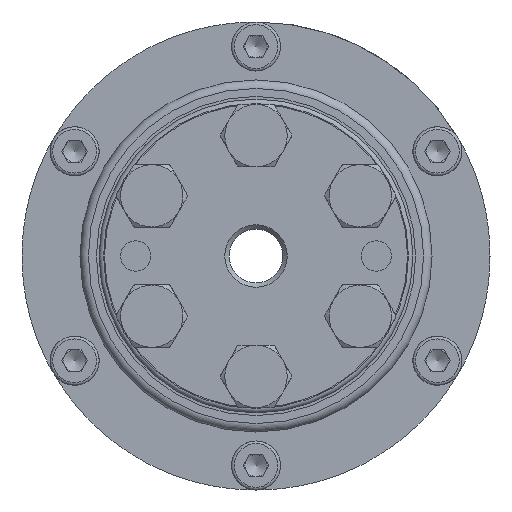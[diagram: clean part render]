
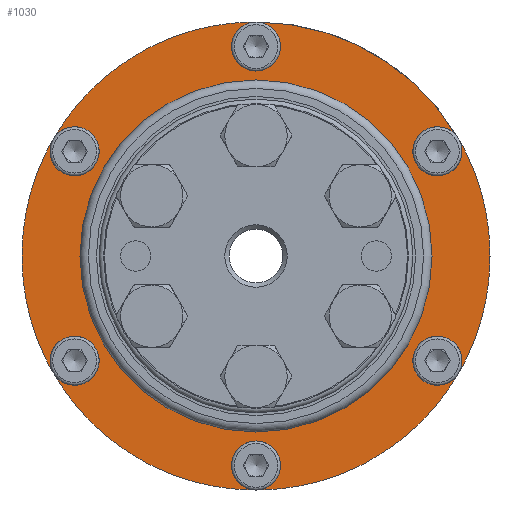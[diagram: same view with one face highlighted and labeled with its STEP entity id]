
A CAD part, left-side view. The second image highlights one B-rep face of the part: STEP entity #1030.
In plain terms, the highlighted planar face has unit normal (-1, 0, 0).
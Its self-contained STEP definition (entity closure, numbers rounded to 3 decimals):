
#1030 = ADVANCED_FACE( '', ( #2565, #2566 ), #2567, .T. );
#2565 = FACE_OUTER_BOUND( '', #4957, .T. );
#2566 = FACE_BOUND( '', #4958, .T. );
#2567 = PLANE( '', #4959 );
#4957 = EDGE_LOOP( '', ( #8512, #8513, #8514, #8515, #8516, #8517, #8518, #8519, #8520, #8521, #8522, #8523 ) );
#4958 = EDGE_LOOP( '', ( #8524 ) );
#4959 = AXIS2_PLACEMENT_3D( '', #8525, #8526, #8527 );
#8512 = ORIENTED_EDGE( '', *, *, #12672, .T. );
#8513 = ORIENTED_EDGE( '', *, *, #11910, .F. );
#8514 = ORIENTED_EDGE( '', *, *, #12673, .T. );
#8515 = ORIENTED_EDGE( '', *, *, #11928, .F. );
#8516 = ORIENTED_EDGE( '', *, *, #12674, .T. );
#8517 = ORIENTED_EDGE( '', *, *, #12675, .F. );
#8518 = ORIENTED_EDGE( '', *, *, #12676, .T. );
#8519 = ORIENTED_EDGE( '', *, *, #12677, .F. );
#8520 = ORIENTED_EDGE( '', *, *, #12678, .T. );
#8521 = ORIENTED_EDGE( '', *, *, #12679, .F. );
#8522 = ORIENTED_EDGE( '', *, *, #12680, .T. );
#8523 = ORIENTED_EDGE( '', *, *, #12681, .F. );
#8524 = ORIENTED_EDGE( '', *, *, #12682, .F. );
#8525 = CARTESIAN_POINT( '', ( 1.25, 0., 26.25 ) );
#8526 = DIRECTION( '', ( -1., 0., 0. ) );
#8527 = DIRECTION( '', ( 0., 0., 1. ) );
#11910 = EDGE_CURVE( '', #13873, #13873, #13874, .T. );
#11928 = EDGE_CURVE( '', #13904, #13904, #13905, .T. );
#12672 = EDGE_CURVE( '', #15131, #13873, #15132, .T. );
#12673 = EDGE_CURVE( '', #13873, #13904, #15133, .T. );
#12674 = EDGE_CURVE( '', #13904, #15134, #15135, .T. );
#12675 = EDGE_CURVE( '', #15134, #15134, #15136, .T. );
#12676 = EDGE_CURVE( '', #15134, #15137, #15138, .T. );
#12677 = EDGE_CURVE( '', #15137, #15137, #15139, .T. );
#12678 = EDGE_CURVE( '', #15137, #15140, #15141, .T. );
#12679 = EDGE_CURVE( '', #15140, #15140, #15142, .T. );
#12680 = EDGE_CURVE( '', #15140, #15131, #15143, .T. );
#12681 = EDGE_CURVE( '', #15131, #15131, #15144, .T. );
#12682 = EDGE_CURVE( '', #15145, #15145, #15146, .T. );
#13873 = VERTEX_POINT( '', #16787 );
#13874 = CIRCLE( '', #16788, 2.75 );
#13904 = VERTEX_POINT( '', #16862 );
#13905 = CIRCLE( '', #16863, 2.75 );
#15131 = VERTEX_POINT( '', #19317 );
#15132 = CIRCLE( '', #19318, 26.25 );
#15133 = CIRCLE( '', #19319, 26.25 );
#15134 = VERTEX_POINT( '', #19320 );
#15135 = CIRCLE( '', #19321, 26.25 );
#15136 = CIRCLE( '', #19322, 2.75 );
#15137 = VERTEX_POINT( '', #19323 );
#15138 = CIRCLE( '', #19324, 26.25 );
#15139 = CIRCLE( '', #19325, 2.75 );
#15140 = VERTEX_POINT( '', #19326 );
#15141 = CIRCLE( '', #19327, 26.25 );
#15142 = CIRCLE( '', #19328, 2.75 );
#15143 = CIRCLE( '', #19329, 26.25 );
#15144 = CIRCLE( '', #19330, 2.75 );
#15145 = VERTEX_POINT( '', #19331 );
#15146 = CIRCLE( '', #19332, 17.6 );
#16787 = CARTESIAN_POINT( '', ( 1.25, -22.733, 13.125 ) );
#16788 = AXIS2_PLACEMENT_3D( '', #21521, #21522, #21523 );
#16862 = CARTESIAN_POINT( '', ( 1.25, 0., 26.25 ) );
#16863 = AXIS2_PLACEMENT_3D( '', #21550, #21551, #21552 );
#19317 = CARTESIAN_POINT( '', ( 1.25, -22.733, -13.125 ) );
#19318 = AXIS2_PLACEMENT_3D( '', #22578, #22579, #22580 );
#19319 = AXIS2_PLACEMENT_3D( '', #22581, #22582, #22583 );
#19320 = CARTESIAN_POINT( '', ( 1.25, 22.733, 13.125 ) );
#19321 = AXIS2_PLACEMENT_3D( '', #22584, #22585, #22586 );
#19322 = AXIS2_PLACEMENT_3D( '', #22587, #22588, #22589 );
#19323 = CARTESIAN_POINT( '', ( 1.25, 22.733, -13.125 ) );
#19324 = AXIS2_PLACEMENT_3D( '', #22590, #22591, #22592 );
#19325 = AXIS2_PLACEMENT_3D( '', #22593, #22594, #22595 );
#19326 = CARTESIAN_POINT( '', ( 1.25, 0., -26.25 ) );
#19327 = AXIS2_PLACEMENT_3D( '', #22596, #22597, #22598 );
#19328 = AXIS2_PLACEMENT_3D( '', #22599, #22600, #22601 );
#19329 = AXIS2_PLACEMENT_3D( '', #22602, #22603, #22604 );
#19330 = AXIS2_PLACEMENT_3D( '', #22605, #22606, #22607 );
#19331 = CARTESIAN_POINT( '', ( 1.25, 0., 17.6 ) );
#19332 = AXIS2_PLACEMENT_3D( '', #22608, #22609, #22610 );
#21521 = CARTESIAN_POINT( '', ( 1.25, -20.352, 11.75 ) );
#21522 = DIRECTION( '', ( -1., 0., 0. ) );
#21523 = DIRECTION( '', ( 0., -0.866, 0.5 ) );
#21550 = CARTESIAN_POINT( '', ( 1.25, 0., 23.5 ) );
#21551 = DIRECTION( '', ( -1., 0., 0. ) );
#21552 = DIRECTION( '', ( 0., 0., 1. ) );
#22578 = CARTESIAN_POINT( '', ( 1.25, 0., 0. ) );
#22579 = DIRECTION( '', ( -1., 0., 0. ) );
#22580 = DIRECTION( '', ( 0., 0., 1. ) );
#22581 = CARTESIAN_POINT( '', ( 1.25, 0., 0. ) );
#22582 = DIRECTION( '', ( -1., 0., 0. ) );
#22583 = DIRECTION( '', ( 0., 0., 1. ) );
#22584 = CARTESIAN_POINT( '', ( 1.25, 0., 0. ) );
#22585 = DIRECTION( '', ( -1., 0., 0. ) );
#22586 = DIRECTION( '', ( 0., 0., 1. ) );
#22587 = CARTESIAN_POINT( '', ( 1.25, 20.352, 11.75 ) );
#22588 = DIRECTION( '', ( -1., 0., 0. ) );
#22589 = DIRECTION( '', ( 0., 0.866, 0.5 ) );
#22590 = CARTESIAN_POINT( '', ( 1.25, 0., 0. ) );
#22591 = DIRECTION( '', ( -1., 0., 0. ) );
#22592 = DIRECTION( '', ( 0., 0., 1. ) );
#22593 = CARTESIAN_POINT( '', ( 1.25, 20.352, -11.75 ) );
#22594 = DIRECTION( '', ( -1., 0., 0. ) );
#22595 = DIRECTION( '', ( 0., 0.866, -0.5 ) );
#22596 = CARTESIAN_POINT( '', ( 1.25, 0., 0. ) );
#22597 = DIRECTION( '', ( -1., 0., 0. ) );
#22598 = DIRECTION( '', ( 0., 0., 1. ) );
#22599 = CARTESIAN_POINT( '', ( 1.25, 0., -23.5 ) );
#22600 = DIRECTION( '', ( -1., 0., 0. ) );
#22601 = DIRECTION( '', ( 0., 0., -1. ) );
#22602 = CARTESIAN_POINT( '', ( 1.25, 0., 0. ) );
#22603 = DIRECTION( '', ( -1., 0., 0. ) );
#22604 = DIRECTION( '', ( 0., 0., 1. ) );
#22605 = CARTESIAN_POINT( '', ( 1.25, -20.352, -11.75 ) );
#22606 = DIRECTION( '', ( -1., 0., 0. ) );
#22607 = DIRECTION( '', ( 0., -0.866, -0.5 ) );
#22608 = CARTESIAN_POINT( '', ( 1.25, 0., 0. ) );
#22609 = DIRECTION( '', ( -1., 0., 0. ) );
#22610 = DIRECTION( '', ( 0., 0., 1. ) );
